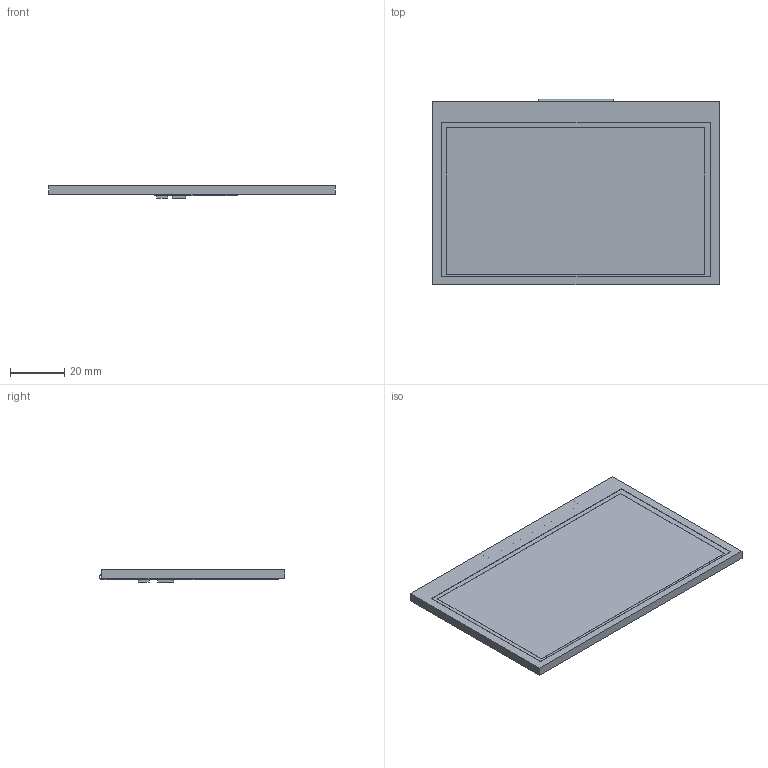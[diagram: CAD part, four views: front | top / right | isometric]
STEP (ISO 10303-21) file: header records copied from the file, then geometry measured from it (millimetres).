
FILE_DESCRIPTION(/* description */ (''),/* implementation_level */ '2;1');
FILE_NAME(/* name */ 'SDWb043T64N_stp.stp',/* time_stamp */ '2024-05-18T16:07:38+08:00',/* author */ (''),/* organization */ (''),/* preprocessor_version */ 'ST-DEVELOPER v16',/* originating_system */ 'SIEMENS PLM Software NX 10.0',/* authorisation */ '');
FILE_SCHEMA (('AP203_CONFIGURATION_CONTROLLED_3D_DESIGN_OF_MECHANICAL_PARTS_AND_ASSEMBLIES_MIM_LF { 1 0 10303 403 2 1 2}'));
Length unit declared in the file: millimetre
Products named in the file (1): SDWb043T64N_stp
Bounding box: 105.42 x 68.08 x 4.65 mm (x, y, z)
Volume: 22802.3 mm3; surface area: 30401.9 mm2
Topology: 22 solids, 22 shells, 154 faces, 321 edges, 214 vertices
Faces by surface type: plane 149, cylinder 4, extrusion 1
Entity records: 5257 total; most frequent: CARTESIAN_POINT 807, ORIENTED_EDGE 642, DIRECTION 636, EDGE_CURVE 321, VECTOR 312, LINE 311, VERTEX_POINT 214, AXIS2_PLACEMENT_3D 162
